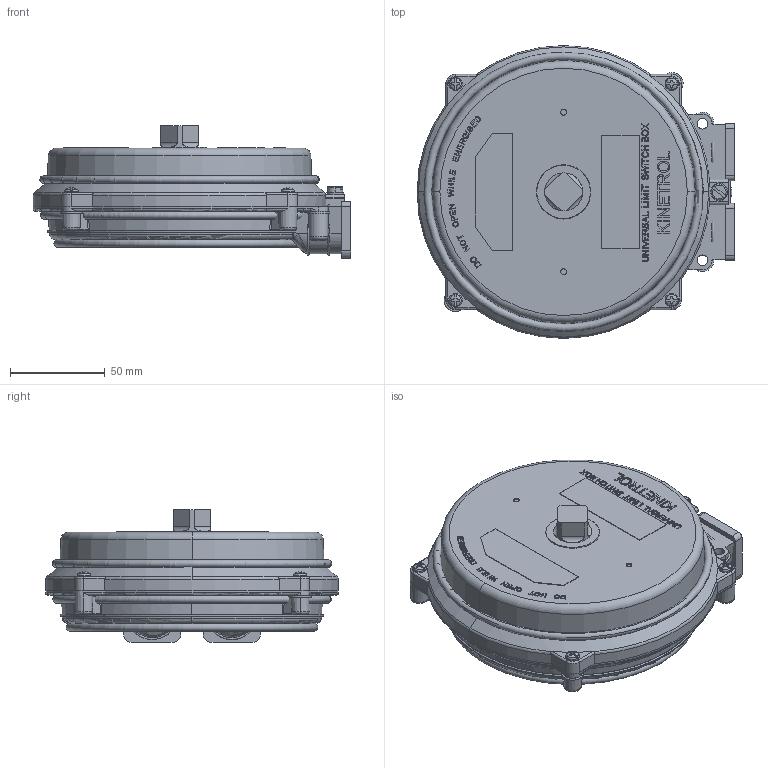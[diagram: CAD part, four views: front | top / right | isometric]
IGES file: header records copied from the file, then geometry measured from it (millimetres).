
Start section: C
Global section: file name: ULS 2 PORT.igs; native system:  By UGS Corp.; preprocessor: XPlus GENERIC/IGES 3.0; author: Author; organization: Title; date: 20110510.094653; units: millimetre
Bounding box: 167.5 x 154.4 x 70.06 mm (x, y, z)
Volume: 857101.3 mm3; surface area: 168798.1 mm2
Topology: 1 solids, 7 shells, 1473 faces, 3928 edges, 2494 vertices
Faces by surface type: plane 701, extrusion 273, cylinder 178, cone 123, torus 94, bspline 85, sphere 19
